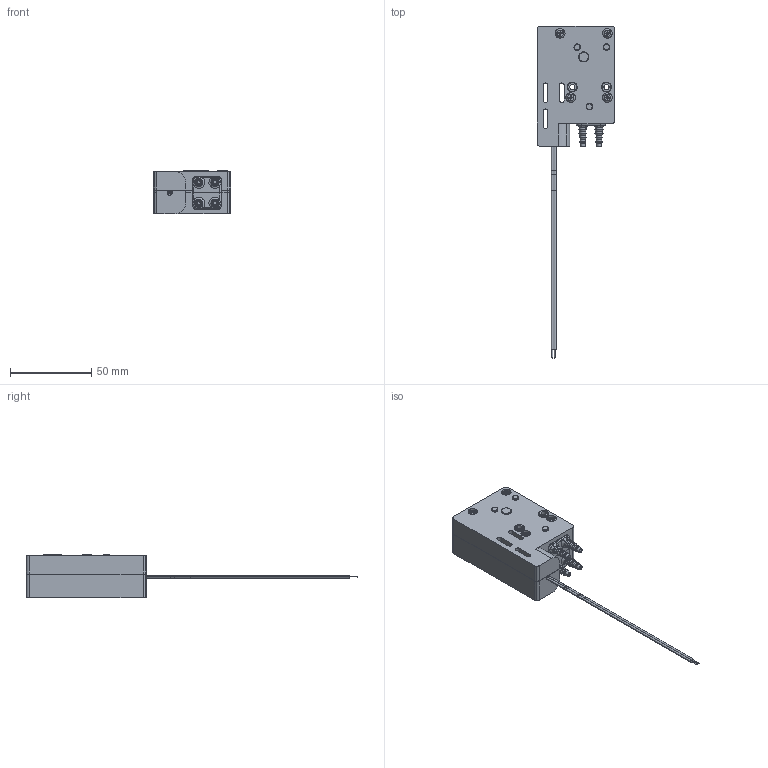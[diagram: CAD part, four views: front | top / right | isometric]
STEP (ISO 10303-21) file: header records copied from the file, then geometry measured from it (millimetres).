
FILE_DESCRIPTION (( 'STEP AP214' ), '1' );
FILE_NAME ('RP-2GIIxxx-.STEP', '2021-06-15T06:16:34', ( '' ), ( '' ), 'SwSTEP 2.0', 'SolidWorks 2021', '' );
FILE_SCHEMA (( 'AUTOMOTIVE_DESIGN' ));
Length unit declared in the file: millimetre
Products named in the file (7): RPG203W P 1-9 SCREW 3X18; WEB用配線; 配線; WEB—pCASE BASE; WEB—pCASE CAV; RP-2GIIxxx-; WEB—pJOINER_for_2G‡U
Assembly tree (10 placements, depth 2):
  RP-2GIIxxx-
    配線
    WEB—pCASE BASE
    WEB用配線
    WEB—pCASE CAV
    WEB—pJOINER_for_2G‡U  x2
    RPG203W P 1-9 SCREW 3X18  x4
Bounding box: 47.5 x 204 x 27 mm (x, y, z)
Volume: 78317.4 mm3; surface area: 29436.9 mm2
Topology: 14 solids, 30 shells, 784 faces, 1936 edges, 1258 vertices
Faces by surface type: cylinder 384, plane 292, cone 50, torus 45, bspline 13
Entity records: 17046 total; most frequent: CARTESIAN_POINT 3216, DIRECTION 3036, ORIENTED_EDGE 2690, EDGE_CURVE 1345, AXIS2_PLACEMENT_3D 1186, VERTEX_POINT 880, VECTOR 664, LINE 664
